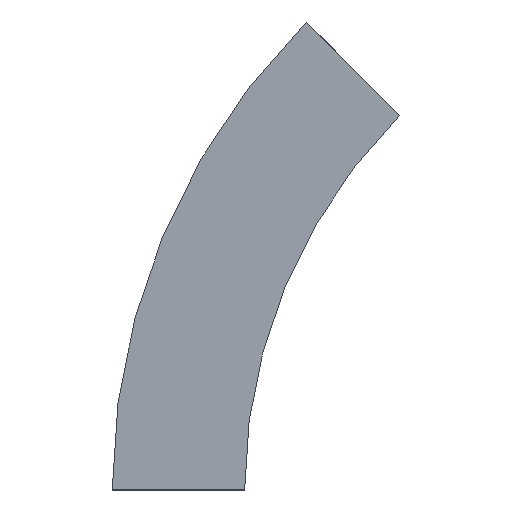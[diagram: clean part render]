
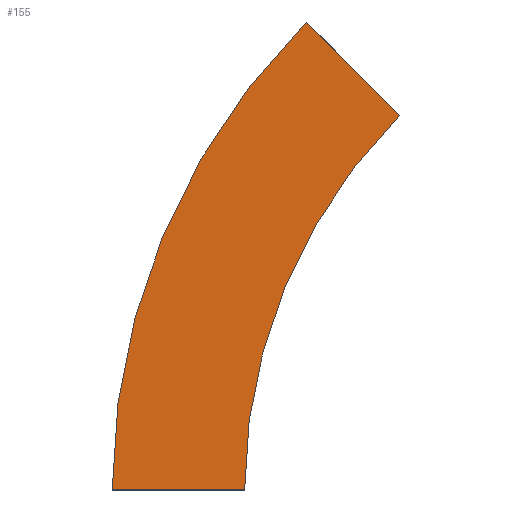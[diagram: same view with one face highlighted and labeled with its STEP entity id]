
A CAD part, left-side view. The second image highlights one B-rep face of the part: STEP entity #155.
In plain terms, the highlighted planar face has unit normal (-1, 0, 0) as drawn and (1, 0, 0) by its records, which use the part's own axes.
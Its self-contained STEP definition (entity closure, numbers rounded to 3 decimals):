
#5 = PLANE ( 'NONE',  #136 ) ;
#11 = VERTEX_POINT ( 'NONE', #33 ) ;
#33 = CARTESIAN_POINT ( 'NONE',  ( 0., -87.868, 212.132 ) ) ;
#37 = VECTOR ( 'NONE', #398, 1000. ) ;
#52 = CARTESIAN_POINT ( 'NONE',  ( 0., -87.868, 212.132 ) ) ;
#65 = AXIS2_PLACEMENT_3D ( 'NONE', #455, #94, #138 ) ;
#74 = CARTESIAN_POINT ( 'NONE',  ( 0., -300., 0. ) ) ;
#80 = ORIENTED_EDGE ( 'NONE', *, *, #417, .F. ) ;
#84 = VECTOR ( 'NONE', #235, 1000. ) ;
#94 = DIRECTION ( 'NONE',  ( 1., 0., 0. ) ) ;
#101 = DIRECTION ( 'NONE',  ( 0., 0., -1. ) ) ;
#130 = EDGE_CURVE ( 'NONE', #305, #169, #467, .T. ) ;
#136 = AXIS2_PLACEMENT_3D ( 'NONE', #511, #201, #101 ) ;
#138 = DIRECTION ( 'NONE',  ( 0., 1., 0. ) ) ;
#151 = CIRCLE ( 'NONE', #224, 375. ) ;
#155 = ADVANCED_FACE ( 'NONE', ( #461 ), #5, .T. ) ;
#156 = CARTESIAN_POINT ( 'NONE',  ( 0., 75., 0. ) ) ;
#157 = ORIENTED_EDGE ( 'NONE', *, *, #166, .F. ) ;
#161 = DIRECTION ( 'NONE',  ( 0., 1., 0. ) ) ;
#166 = EDGE_CURVE ( 'NONE', #11, #440, #272, .T. ) ;
#169 = VERTEX_POINT ( 'NONE', #156 ) ;
#201 = DIRECTION ( 'NONE',  ( 1., 0., 0. ) ) ;
#209 = DIRECTION ( 'NONE',  ( 1., 0., 0. ) ) ;
#224 = AXIS2_PLACEMENT_3D ( 'NONE', #74, #209, #161 ) ;
#232 = CARTESIAN_POINT ( 'NONE',  ( 0., 0., 0. ) ) ;
#235 = DIRECTION ( 'NONE',  ( 0., 0.707, 0.707 ) ) ;
#262 = ORIENTED_EDGE ( 'NONE', *, *, #532, .T. ) ;
#272 = LINE ( 'NONE', #52, #84 ) ;
#305 = VERTEX_POINT ( 'NONE', #377 ) ;
#316 = CIRCLE ( 'NONE', #65, 300. ) ;
#377 = CARTESIAN_POINT ( 'NONE',  ( 0., 0., 0. ) ) ;
#398 = DIRECTION ( 'NONE',  ( 0., 1., 0. ) ) ;
#417 = EDGE_CURVE ( 'NONE', #305, #11, #316, .T. ) ;
#434 = EDGE_LOOP ( 'NONE', ( #262, #157, #80, #490 ) ) ;
#440 = VERTEX_POINT ( 'NONE', #525 ) ;
#455 = CARTESIAN_POINT ( 'NONE',  ( 0., -300., 0. ) ) ;
#461 = FACE_OUTER_BOUND ( 'NONE', #434, .T. ) ;
#467 = LINE ( 'NONE', #232, #37 ) ;
#490 = ORIENTED_EDGE ( 'NONE', *, *, #130, .T. ) ;
#511 = CARTESIAN_POINT ( 'NONE',  ( 0., 0., 0. ) ) ;
#525 = CARTESIAN_POINT ( 'NONE',  ( 0., -34.835, 265.165 ) ) ;
#532 = EDGE_CURVE ( 'NONE', #169, #440, #151, .T. ) ;
